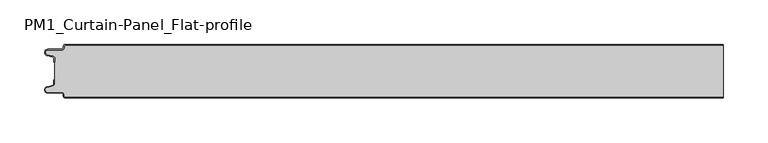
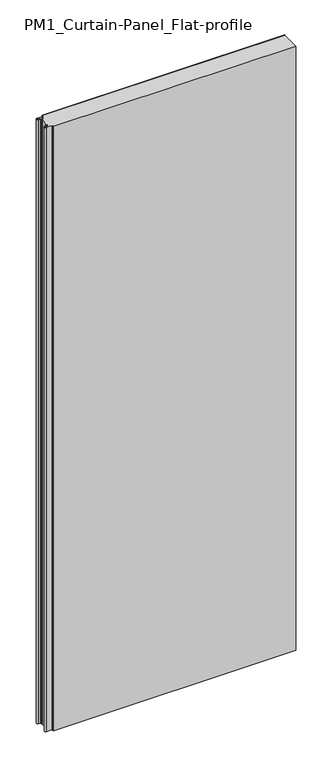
"""IFC4 building model written with IfcOpenShell, lengths in millimetres: plate geometry, PM1_Curtain-Panel_Flat-profile : ACH_PM1_Stone-wool-Panel_60M."""

from ifc_helpers import new_model, si_unit, point, frame_2d, origin, origin_with_axes, place, context, project, spatial, polyline, circle_curve, trimmed, segment, composite_curve, outline, extrude, source, transform, mapped, element, save


def pm1_curtain_panel_flat_profile_449bc577(model_context):
    return source(origin(), model_context, "Body", "SweptSolid", [
        extrude(outline(composite_curve([segment(trimmed(circle_curve(frame_2d((-362.4119739, -2.0)), 1.2), [point((-362.4119739, -0.8))], [point((-363.6119739, -2.0))], True, "CARTESIAN"), True, "CONTINUOUS"), segment(polyline([(-363.6119739, -2.0), (-363.6119739, -3.4)]), True, "CONTINUOUS"), segment(trimmed(circle_curve(frame_2d((-366.4119739, -3.4)), 2.8), [point((-363.6119739, -3.4))], [point((-366.4119739, -6.2))], False, "CARTESIAN"), True, "CONTINUOUS"), segment(polyline([(-366.4119739, -6.2), (-381.9119739, -6.2)]), True, "CONTINUOUS"), segment(trimmed(circle_curve(frame_2d((-381.9119739, -9.0)), 2.8), [point((-381.9119739, -6.2))], [point((-382.541837, -11.7282362))], True, "CARTESIAN"), True, "CONTINUOUS"), segment(polyline([(-382.541837, -11.7282362), (-376.3821109, -13.150321)]), True, "CONTINUOUS"), segment(trimmed(circle_curve(frame_2d((-377.0119739, -15.878557)), 2.8), [point((-376.3821109, -13.150321))], [point((-374.2119739, -15.878557))], False, "CARTESIAN"), True, "CONTINUOUS"), segment(polyline([(-374.2119739, -15.878557), (-374.2119739, -20.0), (-375.0119739, -20.0), (-375.0119739, -15.878557)]), True, "CONTINUOUS"), segment(trimmed(circle_curve(frame_2d((-377.0119739, -15.878557)), 2.0), [point((-375.0119739, -15.878557))], [point((-376.5620718, -13.9298169))], True, "CARTESIAN"), True, "CONTINUOUS"), segment(polyline([(-376.5620718, -13.9298169), (-382.7217978, -12.507732)]), True, "CONTINUOUS"), segment(trimmed(circle_curve(frame_2d((-381.9119739, -9.0)), 3.6), [point((-382.7217978, -12.507732))], [point((-381.9119739, -5.4))], False, "CARTESIAN"), True, "CONTINUOUS"), segment(polyline([(-381.9119739, -5.4), (-366.4119739, -5.4)]), True, "CONTINUOUS"), segment(trimmed(circle_curve(frame_2d((-366.4119739, -3.4)), 2.0), [point((-366.4119739, -5.4))], [point((-364.4119739, -3.4))], True, "CARTESIAN"), True, "CONTINUOUS"), segment(polyline([(-364.4119739, -3.4), (-364.4119739, -2.0)]), True, "CONTINUOUS"), segment(trimmed(circle_curve(frame_2d((-362.4119739, -2.0)), 2.0), [point((-364.4119739, -2.0))], [point((-362.4119739, 0.0))], False, "CARTESIAN"), True, "CONTINUOUS"), segment(polyline([(-362.4119739, 0.0), (375.0119739, 0.0), (375.0119739, -0.8), (-362.4119739, -0.8)]), True, "CONTINUOUS")], self_intersect=False)), origin_with_axes(), (0.0, 0.0, 1.0), 1945.7507136),
        extrude(outline(composite_curve([segment(polyline([(-374.2119739, -44.1214426), (-374.2119739, -15.8785573)]), True, "CONTINUOUS"), segment(trimmed(circle_curve(frame_2d((-377.0119739, -15.8785573)), 2.8), [point((-374.2119739, -15.8785573))], [point((-376.3821109, -13.1503212))], True, "CARTESIAN"), True, "CONTINUOUS"), segment(polyline([(-376.3821109, -13.1503212), (-382.541837, -11.7282362)]), True, "CONTINUOUS"), segment(trimmed(circle_curve(frame_2d((-381.911974, -9.0)), 2.8), [point((-382.541837, -11.7282362))], [point((-381.911974, -6.2))], False, "CARTESIAN"), True, "CONTINUOUS"), segment(polyline([(-381.911974, -6.2), (-366.411974, -6.2)]), True, "CONTINUOUS"), segment(trimmed(circle_curve(frame_2d((-366.411974, -3.4)), 2.8), [point((-366.411974, -6.2))], [point((-363.611974, -3.4))], True, "CARTESIAN"), True, "CONTINUOUS"), segment(polyline([(-363.611974, -3.4), (-363.611974, -2.0)]), True, "CONTINUOUS"), segment(trimmed(circle_curve(frame_2d((-362.411974, -2.0)), 1.2), [point((-363.611974, -2.0))], [point((-362.411974, -0.8))], False, "CARTESIAN"), True, "CONTINUOUS"), segment(polyline([(-362.411974, -0.8), (375.0119739, -0.8), (375.0119739, -59.2), (-362.411974, -59.2)]), True, "CONTINUOUS"), segment(trimmed(circle_curve(frame_2d((-362.411974, -58.0)), 1.2), [point((-362.411974, -59.2))], [point((-363.611974, -58.0))], False, "CARTESIAN"), True, "CONTINUOUS"), segment(polyline([(-363.611974, -58.0), (-363.611974, -56.6)]), True, "CONTINUOUS"), segment(trimmed(circle_curve(frame_2d((-366.411974, -56.6)), 2.8), [point((-363.611974, -56.6))], [point((-366.411974, -53.8))], True, "CARTESIAN"), True, "CONTINUOUS"), segment(polyline([(-366.411974, -53.8), (-381.911974, -53.8)]), True, "CONTINUOUS"), segment(trimmed(circle_curve(frame_2d((-381.911974, -51.0)), 2.8), [point((-381.911974, -53.8))], [point((-382.541837, -48.2717638))], False, "CARTESIAN"), True, "CONTINUOUS"), segment(polyline([(-382.541837, -48.2717638), (-376.3821109, -46.8496788)]), True, "CONTINUOUS"), segment(trimmed(circle_curve(frame_2d((-377.0119739, -44.1214426)), 2.8), [point((-376.3821109, -46.8496788))], [point((-374.2119739, -44.1214426))], True, "CARTESIAN"), True, "CONTINUOUS")], self_intersect=False)), origin_with_axes(), (0.0, 0.0, 1.0), 1945.7507136),
        extrude(outline(composite_curve([segment(trimmed(circle_curve(frame_2d((-362.4119739, -58.0)), 2.0), [point((-362.4119739, -60.0))], [point((-364.4119739, -58.0))], False, "CARTESIAN"), True, "CONTINUOUS"), segment(polyline([(-364.4119739, -58.0), (-364.4119739, -56.6)]), True, "CONTINUOUS"), segment(trimmed(circle_curve(frame_2d((-366.4119739, -56.6)), 2.0), [point((-364.4119739, -56.6))], [point((-366.4119739, -54.6))], True, "CARTESIAN"), True, "CONTINUOUS"), segment(polyline([(-366.4119739, -54.6), (-381.9119739, -54.6)]), True, "CONTINUOUS"), segment(trimmed(circle_curve(frame_2d((-381.9119739, -51.0)), 3.6), [point((-381.9119739, -54.6))], [point((-382.7217979, -47.4922678))], False, "CARTESIAN"), True, "CONTINUOUS"), segment(polyline([(-382.7217979, -47.4922678), (-376.5620718, -46.070183)]), True, "CONTINUOUS"), segment(trimmed(circle_curve(frame_2d((-377.0119739, -44.121443)), 2.0), [point((-376.5620718, -46.070183))], [point((-375.0119739, -44.121443))], True, "CARTESIAN"), True, "CONTINUOUS"), segment(polyline([(-375.0119739, -44.121443), (-375.0119739, -40.0), (-374.2119739, -40.0), (-374.2119739, -44.121443)]), True, "CONTINUOUS"), segment(trimmed(circle_curve(frame_2d((-377.0119739, -44.121443)), 2.8), [point((-374.2119739, -44.121443))], [point((-376.3821109, -46.8496792))], False, "CARTESIAN"), True, "CONTINUOUS"), segment(polyline([(-376.3821109, -46.8496792), (-382.5418369, -48.271764)]), True, "CONTINUOUS"), segment(trimmed(circle_curve(frame_2d((-381.9119739, -51.0)), 2.8), [point((-382.5418369, -48.271764))], [point((-381.9119739, -53.8))], True, "CARTESIAN"), True, "CONTINUOUS"), segment(polyline([(-381.9119739, -53.8), (-366.4119739, -53.8)]), True, "CONTINUOUS"), segment(trimmed(circle_curve(frame_2d((-366.4119739, -56.6)), 2.8), [point((-366.4119739, -53.8))], [point((-363.6119739, -56.6))], False, "CARTESIAN"), True, "CONTINUOUS"), segment(polyline([(-363.6119739, -56.6), (-363.6119739, -58.0)]), True, "CONTINUOUS"), segment(trimmed(circle_curve(frame_2d((-362.4119739, -58.0)), 1.2), [point((-363.6119739, -58.0))], [point((-362.4119739, -59.2))], True, "CARTESIAN"), True, "CONTINUOUS"), segment(polyline([(-362.4119739, -59.2), (375.0119739, -59.2), (375.0119739, -60.0), (-362.4119739, -60.0)]), True, "CONTINUOUS")], self_intersect=False)), origin_with_axes(), (0.0, 0.0, 1.0), 1945.7507136),
    ])


if __name__ == "__main__":
    model = new_model("IFC4")
    model_context = context("Model", 3, world=origin())
    ifc_project = project(units=[si_unit("LENGTHUNIT", "METRE", prefix="MILLI")], contexts=[model_context])
    site = spatial("IfcSite", under=ifc_project)
    building = spatial("IfcBuilding", under=site)
    placement = place(None, origin())
    pm1_curtain_panel_flat_profile_shape = pm1_curtain_panel_flat_profile_449bc577(model_context)
    element("IfcPlate", 1, ObjectType="PM1_Curtain-Panel_Flat-profile : ACH_PM1_Stone-wool-Panel_60M", at=placement, inside=building, context=model_context, shape_type="MappedRepresentation", body=[
        mapped(pm1_curtain_panel_flat_profile_shape, transform((0.0, 0.0, 0.0), x_axis=(1.0, 0.0, 0.0), y_axis=(0.0, 1.0, 0.0), z_axis=(0.0, 0.0, 1.0))),
    ])
    save(model, "model.ifc")
